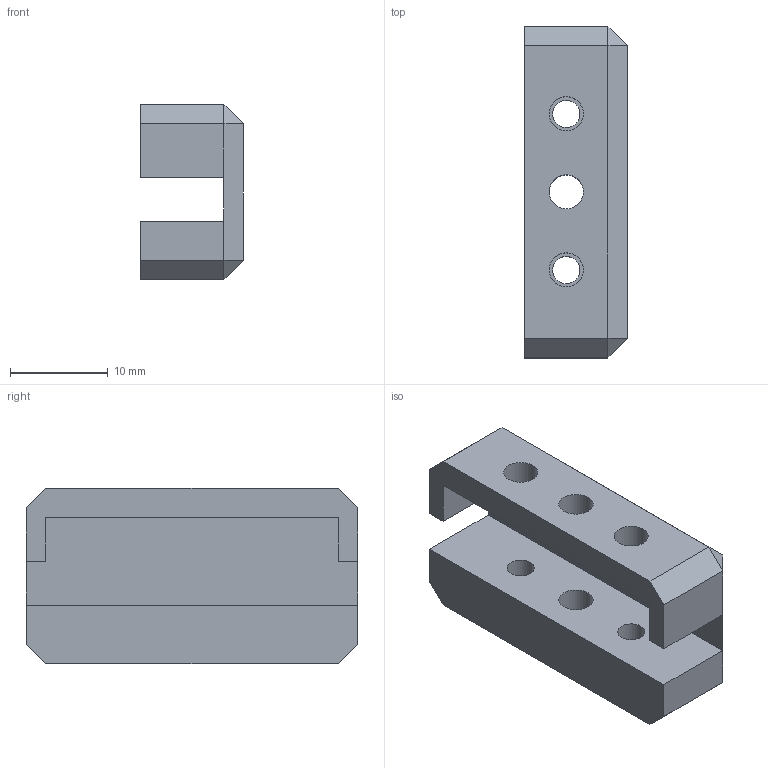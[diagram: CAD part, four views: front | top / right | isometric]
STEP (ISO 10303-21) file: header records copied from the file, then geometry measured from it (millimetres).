
FILE_DESCRIPTION(/* description */ ('STEP AP242 Edition 2','CAx-IF Rec.Pracs.---Representation and Presentation of Product Manufacturing Information (PMI)---4.0---2014-10-13','CAx-IF Rec.Pracs.---3D Tessellated Geometry---0.4---2014-09-14','2;1','CAx-IF Rec.Pracs.---User Defined Attributes---1.5---2016-08-15'),/* implementation_level */ '2;1');
FILE_NAME(/* name */ 'Enclosure - Stick Cap 1',/* time_stamp */ '2026-11-16T09:17:37Z',/* author */ (''),/* organization */ (''),/* preprocessor_version */ 'ST-DEVELOPER v20',/* originating_system */ 'ONSHAPE BY PTC INC, 1.223',/* authorisation */ ' ');
FILE_SCHEMA (('AP242_MANAGED_MODEL_BASED_3D_ENGINEERING_MIM_LF { 1 0 10303 442 3 1 4 }'));
Length unit declared in the file: metre
Products named in the file (1): Stick Cap 1
Bounding box: 10.55 x 34 x 18 mm (x, y, z)
Volume: 3457.4 mm3; surface area: 2908.5 mm2
Topology: 1 solids, 1 shells, 41 faces, 104 edges, 66 vertices
Faces by surface type: plane 35, cylinder 6
Full cylindrical faces by diameter (mm): 2.8 x2, 3.5 x4
Entity records: 1172 total; most frequent: CARTESIAN_POINT 194, DIRECTION 188, ORIENTED_EDGE 184, EDGE_CURVE 92, LINE 80, VECTOR 80, VERTEX_POINT 60, EDGE_LOOP 60
